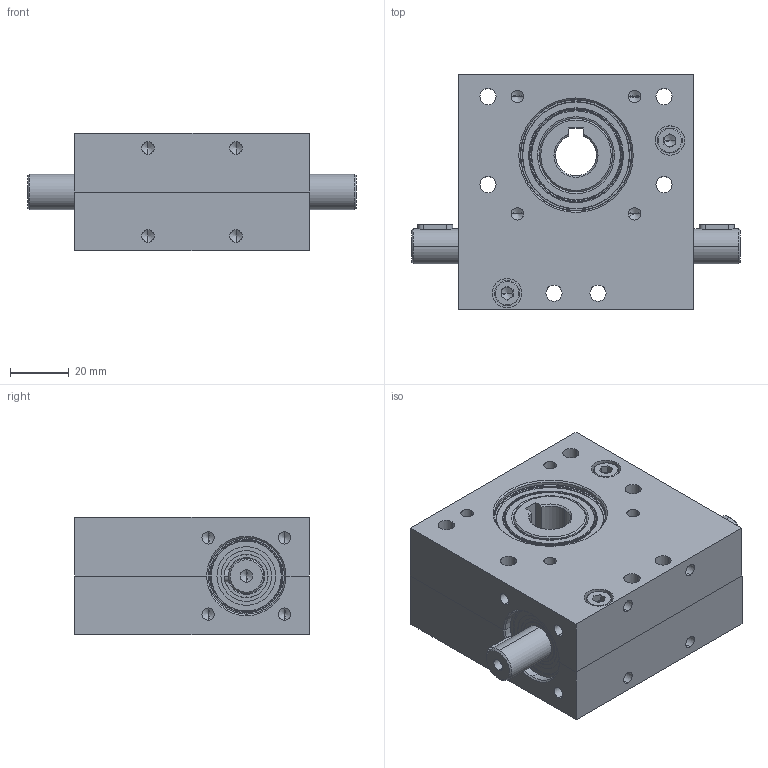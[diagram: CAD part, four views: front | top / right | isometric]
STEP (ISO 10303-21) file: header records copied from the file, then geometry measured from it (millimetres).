
FILE_DESCRIPTION (( 'STEP AP214' ), '1' );
FILE_NAME ('SN26H-A31_EW-beid.STEP', '2024-09-03T12:06:17', ( '' ), ( '' ), 'SwSTEP 2.0', 'SolidWorks 2021', '' );
FILE_SCHEMA (( 'AUTOMOTIVE_DESIGN' ));
Length unit declared in the file: millimetre
Products named in the file (12): 12x28x8 - 6001_2RS; CLA-B31-EW-001_3D-Export; PF_A4x4x12_A2; PS_20x28xBedarfsbreite; PS_12x18xBedarfsbreite; socket head cap screw_iso_ISO 4762 M5 x 25 - 25C; Sicherungsring DIN 471 - 12x1; 26H-A31-G-001_3D-Export; SN26H-A31_EW-beid; CLA-B31-EW-002_3D-Export; 25x42x9 - 6905_2RS; CLA-B31-W-001_3D-Export
Assembly tree (19 placements, depth 2):
  SN26H-A31_EW-beid
    26H-A31-G-001_3D-Export  x2
    CLA-B31-W-001_3D-Export
    CLA-B31-EW-001_3D-Export
    25x42x9 - 6905_2RS  x2
    12x28x8 - 6001_2RS  x2
    PS_20x28xBedarfsbreite  x2
    PS_12x18xBedarfsbreite
    Sicherungsring DIN 471 - 12x1
    PF_A4x4x12_A2  x2
    socket head cap screw_iso_ISO 4762 M5 x 25 - 25C  x4
    CLA-B31-EW-002_3D-Export
Bounding box: 112 x 80 x 40 mm (x, y, z)
Volume: 217999 mm3; surface area: 87529.2 mm2
Topology: 47 solids, 48 shells, 847 faces, 2032 edges, 1247 vertices
Faces by surface type: cylinder 291, cone 232, plane 172, torus 120, sphere 32
Entity records: 15983 total; most frequent: DIRECTION 2519, CARTESIAN_POINT 2215, ORIENTED_EDGE 1982, AXIS2_PLACEMENT_3D 1072, EDGE_CURVE 991, VERTEX_POINT 632, CIRCLE 608, EDGE_LOOP 517
